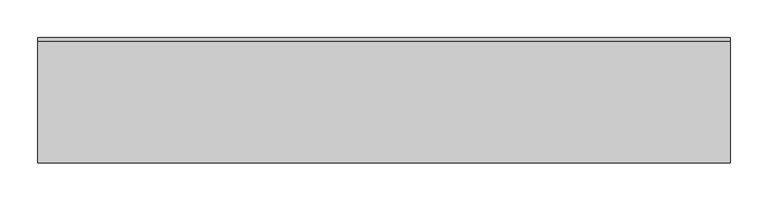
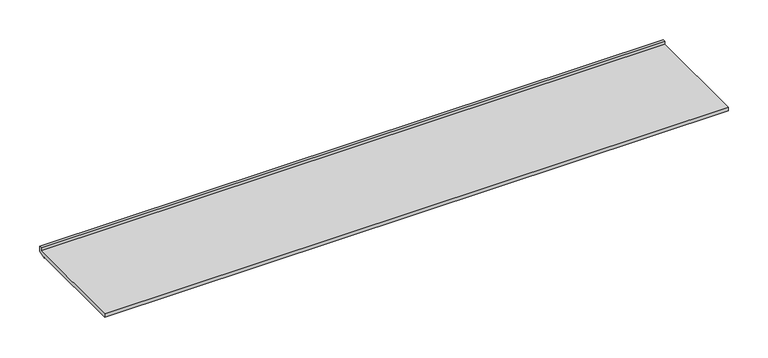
"""IFC4 building model written with IfcOpenShell, lengths in millimetres: furniture geometry, Geiger_GeigerOneCasegoods_Casegoods_AccessoryShelf : 35.875Wx 6.5Dx 0.375H."""

from ifc_helpers import new_model, si_unit, frame, origin, place, context, project, spatial, polyline, outline, extrude, source, transform, mapped, element, save


def furniture_120a830a(model_context):
    return source(origin(), model_context, "Body", "SweptSolid", [
        extrude(outline(polyline([(-4.0132, 4.9784), (-4.0132, 9.525), (0.0, 9.525), (0.0, 4.0894), (-0.2794, 3.0734), (-1.0414, 2.3114), (-10.5156, -1.524), (-12.4968, -1.524), (-12.4968, 0.0), (-165.1, 0.0), (-165.1, 4.9784), (-4.0132, 4.9784)])), frame((0.0, 0.0, 0.0), z_axis=(1.0, 0.0, 0.0), x_axis=(0.0, 1.0, 0.0)), (0.0, 0.0, 1.0), 911.225),
    ])


if __name__ == "__main__":
    model = new_model("IFC4")
    model_context = context("Model", 3, world=origin())
    ifc_project = project(units=[si_unit("LENGTHUNIT", "METRE", prefix="MILLI")], contexts=[model_context])
    site = spatial("IfcSite", under=ifc_project)
    building = spatial("IfcBuilding", under=site)
    placement = place(None, origin())
    furniture_shape = furniture_120a830a(model_context)
    element("IfcFurniture", 1, ObjectType="Geiger_GeigerOneCasegoods_Casegoods_AccessoryShelf : 35.875Wx 6.5Dx 0.375H", at=placement, inside=building, context=model_context, shape_type="MappedRepresentation", body=[
        mapped(furniture_shape, transform((0.0, 0.0, 0.0), x_axis=(1.0, 0.0, 0.0), y_axis=(0.0, 1.0, 0.0), z_axis=(0.0, 0.0, 1.0))),
    ])
    save(model, "model.ifc")
